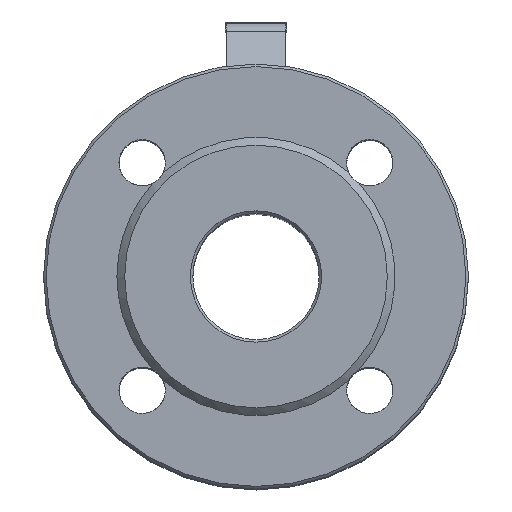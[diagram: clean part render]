
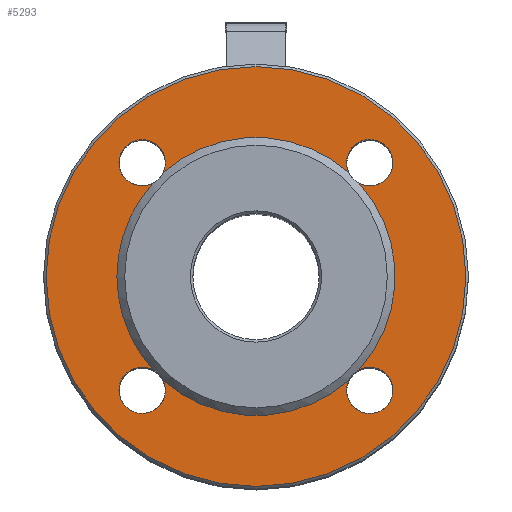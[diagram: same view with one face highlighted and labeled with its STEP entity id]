
A CAD part, top view. The second image highlights one B-rep face of the part: STEP entity #5293.
In plain terms, the highlighted planar face has unit normal (0, 0, 1).
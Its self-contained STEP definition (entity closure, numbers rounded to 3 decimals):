
#5293=ADVANCED_FACE('',(#16790,#16792),#16794,.F.);
#16790=FACE_BOUND('',#16791,.T.);
#16791=EDGE_LOOP('',(#25838));
#16792=FACE_BOUND('',#16793,.T.);
#16793=EDGE_LOOP('',(#25839,#25840,#25841,#25842,#25843,#25844,#25845,#25846,#25847,
#25848,#25849,#25850,#25851));
#16794=PLANE('',#16795);
#16795=AXIS2_PLACEMENT_3D('',#16796,#16797,#16798);
#16796=CARTESIAN_POINT('',(0.,0.,112.));
#16797=DIRECTION('',(0.,0.,-1.));
#16798=DIRECTION('',(-1.,0.,0.));
#25838=ORIENTED_EDGE('',*,*,#29657,.F.);
#25839=ORIENTED_EDGE('',*,*,#29658,.F.);
#25840=ORIENTED_EDGE('',*,*,#29630,.F.);
#25841=ORIENTED_EDGE('',*,*,#29629,.F.);
#25842=ORIENTED_EDGE('',*,*,#29659,.F.);
#25843=ORIENTED_EDGE('',*,*,#29634,.F.);
#25844=ORIENTED_EDGE('',*,*,#29633,.F.);
#25845=ORIENTED_EDGE('',*,*,#29660,.F.);
#25846=ORIENTED_EDGE('',*,*,#29637,.F.);
#25847=ORIENTED_EDGE('',*,*,#29636,.F.);
#25848=ORIENTED_EDGE('',*,*,#29661,.F.);
#25849=ORIENTED_EDGE('',*,*,#29662,.F.);
#25850=ORIENTED_EDGE('',*,*,#29627,.F.);
#25851=ORIENTED_EDGE('',*,*,#29626,.F.);
#29626=EDGE_CURVE('',#35740,#35741,#35742,.T.);
#29627=EDGE_CURVE('',#35741,#35743,#35744,.T.);
#29629=EDGE_CURVE('',#35746,#35747,#35748,.T.);
#29630=EDGE_CURVE('',#35747,#35749,#35750,.T.);
#29633=EDGE_CURVE('',#35753,#35755,#35756,.T.);
#29634=EDGE_CURVE('',#35755,#35752,#35757,.T.);
#29636=EDGE_CURVE('',#35759,#35761,#35762,.T.);
#29637=EDGE_CURVE('',#35761,#35758,#35763,.T.);
#29657=EDGE_CURVE('',#35798,#35798,#35799,.T.);
#29658=EDGE_CURVE('',#35749,#35740,#35800,.T.);
#29659=EDGE_CURVE('',#35752,#35746,#35801,.T.);
#29660=EDGE_CURVE('',#35758,#35753,#35802,.T.);
#29661=EDGE_CURVE('',#35803,#35759,#35804,.T.);
#29662=EDGE_CURVE('',#35743,#35803,#35805,.T.);
#35740=VERTEX_POINT('',#57790);
#35741=VERTEX_POINT('',#57791);
#35742=CIRCLE('',#57792,9.);
#35743=VERTEX_POINT('',#57796);
#35744=CIRCLE('',#57797,9.);
#35746=VERTEX_POINT('',#57860);
#35747=VERTEX_POINT('',#57861);
#35748=CIRCLE('',#57862,9.);
#35749=VERTEX_POINT('',#57866);
#35750=CIRCLE('',#57867,9.);
#35752=VERTEX_POINT('',#57930);
#35753=VERTEX_POINT('',#57931);
#35755=VERTEX_POINT('',#57991);
#35756=CIRCLE('',#57992,9.);
#35757=CIRCLE('',#57996,9.);
#35758=VERTEX_POINT('',#58000);
#35759=VERTEX_POINT('',#58001);
#35761=VERTEX_POINT('',#58061);
#35762=CIRCLE('',#58062,9.);
#35763=CIRCLE('',#58066,9.);
#35798=VERTEX_POINT('',#58161);
#35799=CIRCLE('',#58162,81.5);
#35800=CIRCLE('',#58166,54.);
#35801=CIRCLE('',#58170,54.);
#35802=CIRCLE('',#58174,54.);
#35803=VERTEX_POINT('',#58178);
#35804=CIRCLE('',#58179,54.);
#35805=CIRCLE('',#58183,54.);
#57790=CARTESIAN_POINT('',(-36.191,40.078,112.));
#57791=CARTESIAN_POINT('',(-53.194,44.194,112.));
#57792=AXIS2_PLACEMENT_3D('',#57793,#57794,#57795);
#57793=CARTESIAN_POINT('',(-44.194,44.194,112.));
#57794=DIRECTION('',(0.,0.,1.));
#57795=DIRECTION('',(0.889,-0.457,0.));
#57796=CARTESIAN_POINT('',(-40.078,36.191,112.));
#57797=AXIS2_PLACEMENT_3D('',#57798,#57799,#57800);
#57798=CARTESIAN_POINT('',(-44.194,44.194,112.));
#57799=DIRECTION('',(0.,0.,1.));
#57800=DIRECTION('',(-1.,0.,0.));
#57860=CARTESIAN_POINT('',(40.078,36.191,112.));
#57861=CARTESIAN_POINT('',(35.194,44.194,112.));
#57862=AXIS2_PLACEMENT_3D('',#57863,#57864,#57865);
#57863=CARTESIAN_POINT('',(44.194,44.194,112.));
#57864=DIRECTION('',(0.,0.,1.));
#57865=DIRECTION('',(-0.457,-0.889,0.));
#57866=CARTESIAN_POINT('',(36.191,40.078,112.));
#57867=AXIS2_PLACEMENT_3D('',#57868,#57869,#57870);
#57868=CARTESIAN_POINT('',(44.194,44.194,112.));
#57869=DIRECTION('',(0.,0.,1.));
#57870=DIRECTION('',(-1.,0.,0.));
#57930=CARTESIAN_POINT('',(40.078,-36.191,112.));
#57931=CARTESIAN_POINT('',(36.191,-40.078,112.));
#57991=CARTESIAN_POINT('',(35.194,-44.194,112.));
#57992=AXIS2_PLACEMENT_3D('',#57993,#57994,#57995);
#57993=CARTESIAN_POINT('',(44.194,-44.194,112.));
#57994=DIRECTION('',(0.,0.,1.));
#57995=DIRECTION('',(-0.889,0.457,0.));
#57996=AXIS2_PLACEMENT_3D('',#57997,#57998,#57999);
#57997=CARTESIAN_POINT('',(44.194,-44.194,112.));
#57998=DIRECTION('',(0.,0.,1.));
#57999=DIRECTION('',(-1.,0.,0.));
#58000=CARTESIAN_POINT('',(-36.191,-40.078,112.));
#58001=CARTESIAN_POINT('',(-40.078,-36.191,112.));
#58061=CARTESIAN_POINT('',(-53.194,-44.194,112.));
#58062=AXIS2_PLACEMENT_3D('',#58063,#58064,#58065);
#58063=CARTESIAN_POINT('',(-44.194,-44.194,112.));
#58064=DIRECTION('',(0.,0.,1.));
#58065=DIRECTION('',(0.457,0.889,0.));
#58066=AXIS2_PLACEMENT_3D('',#58067,#58068,#58069);
#58067=CARTESIAN_POINT('',(-44.194,-44.194,112.));
#58068=DIRECTION('',(0.,0.,1.));
#58069=DIRECTION('',(-1.,0.,0.));
#58161=CARTESIAN_POINT('',(-81.5,0.,112.));
#58162=AXIS2_PLACEMENT_3D('',#58163,#58164,#58165);
#58163=CARTESIAN_POINT('',(0.,0.,112.));
#58164=DIRECTION('',(0.,0.,-1.));
#58165=DIRECTION('',(-1.,0.,0.));
#58166=AXIS2_PLACEMENT_3D('',#58167,#58168,#58169);
#58167=CARTESIAN_POINT('',(0.,0.,112.));
#58168=DIRECTION('',(0.,0.,1.));
#58169=DIRECTION('',(0.67,0.742,0.));
#58170=AXIS2_PLACEMENT_3D('',#58171,#58172,#58173);
#58171=CARTESIAN_POINT('',(0.,0.,112.));
#58172=DIRECTION('',(0.,0.,1.));
#58173=DIRECTION('',(0.742,-0.67,0.));
#58174=AXIS2_PLACEMENT_3D('',#58175,#58176,#58177);
#58175=CARTESIAN_POINT('',(0.,0.,112.));
#58176=DIRECTION('',(0.,0.,1.));
#58177=DIRECTION('',(-0.67,-0.742,0.));
#58178=CARTESIAN_POINT('',(-54.,0.,112.));
#58179=AXIS2_PLACEMENT_3D('',#58180,#58181,#58182);
#58180=CARTESIAN_POINT('',(0.,0.,112.));
#58181=DIRECTION('',(0.,0.,1.));
#58182=DIRECTION('',(-1.,0.,0.));
#58183=AXIS2_PLACEMENT_3D('',#58184,#58185,#58186);
#58184=CARTESIAN_POINT('',(0.,0.,112.));
#58185=DIRECTION('',(0.,0.,1.));
#58186=DIRECTION('',(-0.742,0.67,0.));
